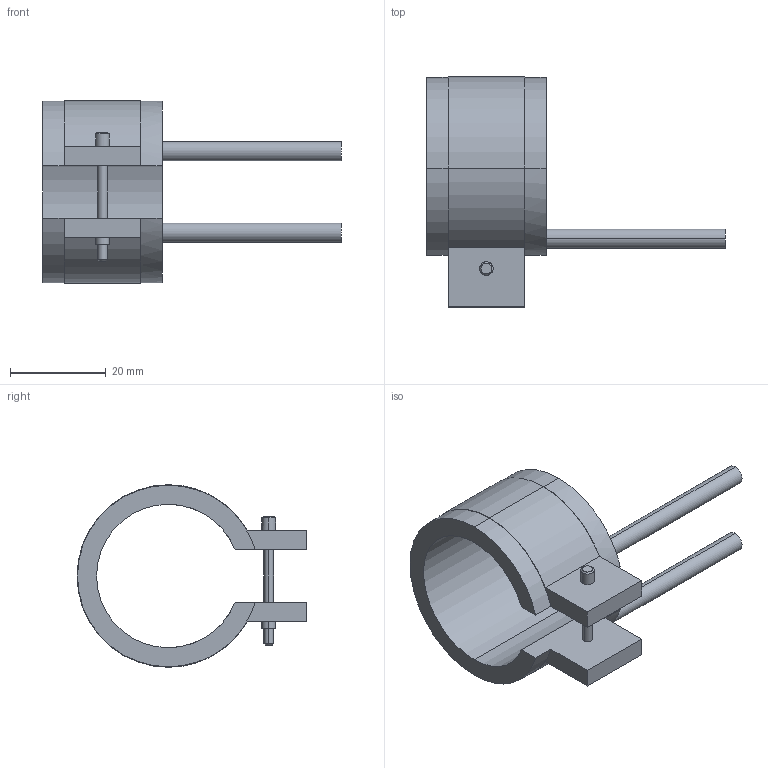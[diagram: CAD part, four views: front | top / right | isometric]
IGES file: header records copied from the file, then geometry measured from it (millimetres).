
Start section: START RECORD GO HERE.
Global section: file name: 14030025.igs; native system: DASSAULT SYSTEMES CATIA V5 R20 - www.3ds.com; preprocessor: CATIA Version 5 Release 20 ; author: Utente; organization: NB04-ASUS; date: 20210331.134159; units: millimetre
Bounding box: 62.5 x 48.1 x 38.2 mm (x, y, z)
Surface area: 7769 mm2 (no closed solid volume)
Topology: 0 solids, 0 shells, 45 faces, 232 edges, 232 vertices
Faces by surface type: revolution 28, plane 17
